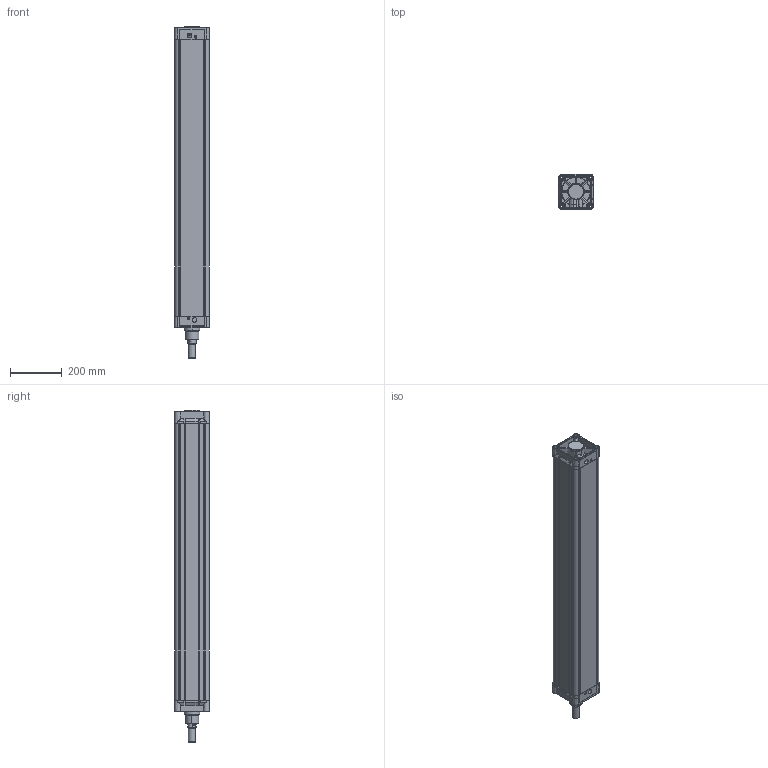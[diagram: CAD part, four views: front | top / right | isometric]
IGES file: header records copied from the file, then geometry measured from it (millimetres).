
Start section: SolidWorks IGES file using analytic representation for surfaces
Global section: file name: D:\ARICA 3D 禽Z軲LER\3D IGES\KDNC\KDNC125\KDNC125X1000CYLINDER.IGS,1; native system: 5HSolidWorks 2013; preprocessor: SolidWorks 2013; author: user; date: 150304.132557; units: millimetre
Bounding box: 134 x 134.3 x 1283 mm (x, y, z)
Surface area: 1676029 mm2 (no closed solid volume)
Topology: 0 solids, 0 shells, 1076 faces, 16936 edges, 16930 vertices
Faces by surface type: revolution 581, bspline 495
